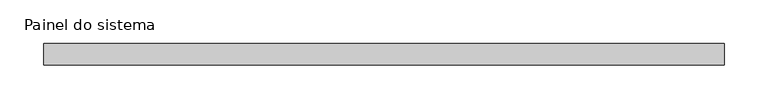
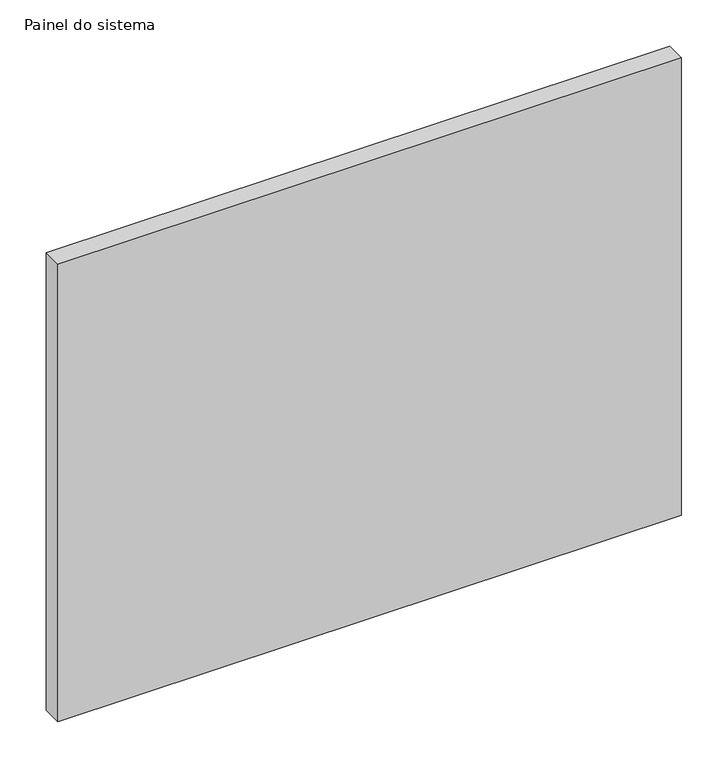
"""IFC4 building model written with IfcOpenShell, lengths in millimetres: plate geometry, Painel do sistema : Envidraçado."""

from ifc_helpers import new_model, si_unit, origin, origin_with_axes, place, context, project, spatial, polyline, outline, extrude, source, transform, mapped, element, save


def painel_do_sistema_771ce81e(model_context):
    return source(origin(), model_context, "Body", "SweptSolid", [
        extrude(outline(polyline([(390.0, -49.5), (-390.0, -49.5), (-390.0, -24.5), (390.0, -24.5), (390.0, -49.5)])), origin_with_axes(), (0.0, 0.0, 1.0), 605.0),
    ])


if __name__ == "__main__":
    model = new_model("IFC4")
    model_context = context("Model", 3, world=origin())
    ifc_project = project(units=[si_unit("LENGTHUNIT", "METRE", prefix="MILLI")], contexts=[model_context])
    site = spatial("IfcSite", under=ifc_project)
    building = spatial("IfcBuilding", under=site)
    placement = place(None, origin())
    painel_do_sistema_shape = painel_do_sistema_771ce81e(model_context)
    element("IfcPlate", 1, ObjectType="Painel do sistema : Envidraçado", at=placement, inside=building, context=model_context, shape_type="MappedRepresentation", body=[
        mapped(painel_do_sistema_shape, transform((0.0, 0.0, 0.0), x_axis=(1.0, 0.0, 0.0), y_axis=(0.0, 1.0, 0.0), z_axis=(0.0, 0.0, 1.0))),
    ])
    save(model, "model.ifc")
